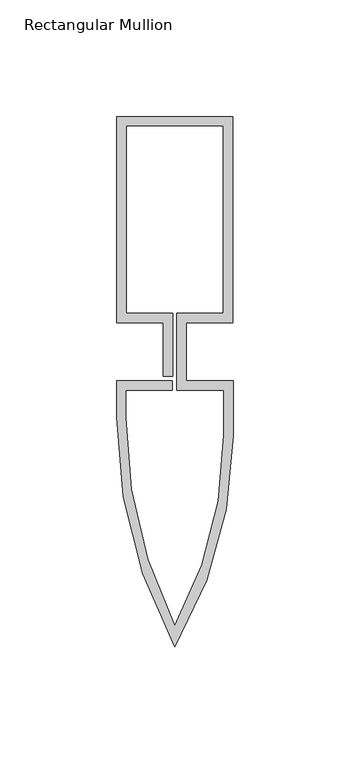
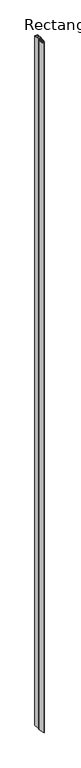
"""IFC4 building model written with IfcOpenShell, lengths in millimetres: member geometry, Rectangular Mullion : Reynaers_CW-50_Mullion-Transom_Horizontal_88.4mm_Facecap-05."""

from ifc_helpers import new_model, si_unit, point, frame, frame_2d, origin, place, context, project, spatial, polyline, circle_curve, trimmed, segment, composite_curve, outline, extrude, source, transform, mapped, element, save


def rectangular_mullion_1049462c(model_context):
    return source(origin(), model_context, "Body", "SweptSolid", [
        extrude(outline(composite_curve([segment(polyline([(-24.8004059, 100.9), (24.8004059, 100.9), (24.8004059, 12.5), (4.9004059, 12.5), (4.9004059, -12.5), (24.994845, -12.5), (24.994845, -36.0195976)]), True, "CONTINUOUS"), segment(trimmed(circle_curve(frame_2d((-151.2704106, -36.0195976)), 176.2652556), [point((24.994845, -36.0195976))], [point((0.0, -126.5))], False, "CARTESIAN"), True, "CONTINUOUS"), segment(trimmed(circle_curve(frame_2d((181.1469577, -28.111878)), 206.1418028), [point((0.0, -126.5))], [point((-24.994845, -28.111878))], False, "CARTESIAN"), True, "CONTINUOUS"), segment(polyline([(-24.994845, -28.111878), (-24.994845, -12.5), (-1.0995941, -12.5), (-1.0995941, -16.5), (-20.994845, -16.5), (-20.994845, -28.2355063)]), True, "CONTINUOUS"), segment(trimmed(circle_curve(frame_2d((179.2670132, -28.2355063)), 200.2618582), [point((-20.994845, -28.2355063))], [point((0.0, -117.5))], True, "CARTESIAN"), True, "CONTINUOUS"), segment(trimmed(circle_curve(frame_2d((-147.4777527, -36.0547506)), 168.4725977), [point((0.0, -117.5))], [point((20.994845, -36.0547506))], True, "CARTESIAN"), True, "CONTINUOUS"), segment(polyline([(20.994845, -36.0547506), (20.994845, -16.5), (0.9004059, -16.5), (0.9004059, 16.5), (20.8004059, 16.5), (20.8004059, 96.9), (-20.8004059, 96.9), (-20.8004059, 16.5), (-0.9004059, 16.5), (-0.9004059, -10.5), (-4.9004059, -10.5), (-4.9004059, 12.5), (-24.8004059, 12.5), (-24.8004059, 100.9)]), True, "CONTINUOUS")], self_intersect=False)), frame((0.0, 0.0, -12000.0), z_axis=(0.0, 0.0, 1.0), x_axis=(1.0, 0.0, 0.0)), (0.0, 0.0, 1.0), 12000.0),
    ])


if __name__ == "__main__":
    model = new_model("IFC4")
    model_context = context("Model", 3, world=origin())
    ifc_project = project(units=[si_unit("LENGTHUNIT", "METRE", prefix="MILLI")], contexts=[model_context])
    site = spatial("IfcSite", under=ifc_project)
    building = spatial("IfcBuilding", under=site)
    placement = place(None, origin())
    rectangular_mullion_shape = rectangular_mullion_1049462c(model_context)
    element("IfcMember", 1, ObjectType="Rectangular Mullion : Reynaers_CW-50_Mullion-Transom_Horizontal_88.4mm_Facecap-05", at=placement, inside=building, context=model_context, shape_type="MappedRepresentation", body=[
        mapped(rectangular_mullion_shape, transform((0.0, 0.0, 0.0), x_axis=(1.0, 0.0, 0.0), y_axis=(0.0, 1.0, 0.0), z_axis=(0.0, 0.0, 1.0))),
    ])
    save(model, "model.ifc")
